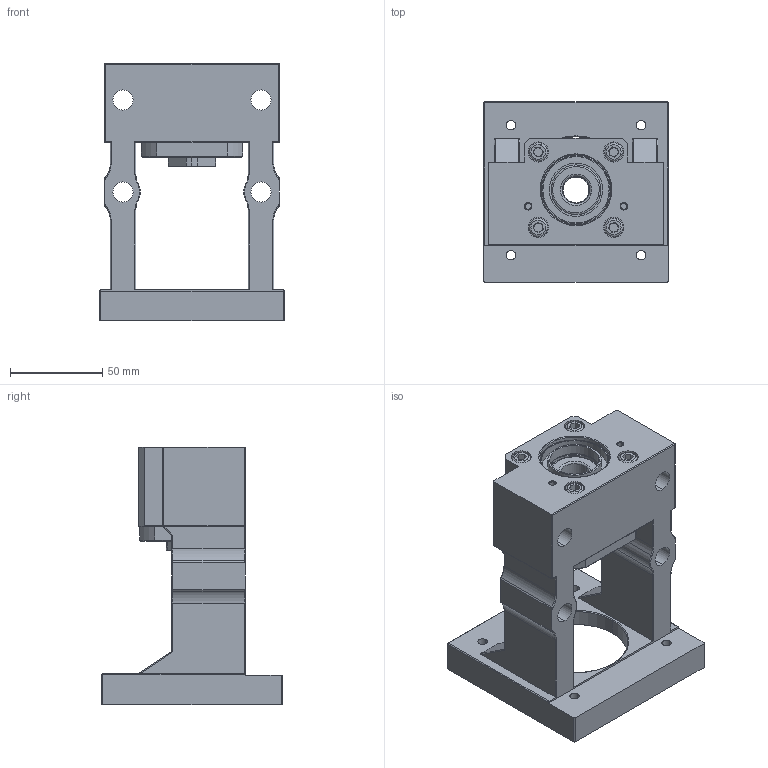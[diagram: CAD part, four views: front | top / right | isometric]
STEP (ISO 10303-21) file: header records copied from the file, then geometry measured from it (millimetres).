
FILE_DESCRIPTION (( 'STEP AP203' ), '1' );
FILE_NAME ('MBCS15-X.STEP', '2017-12-28T07:47:53', ( '' ), ( '' ), 'SwSTEP 2.0', 'SolidWorks 2017', '' );
FILE_SCHEMA (( 'CONFIG_CONTROL_DESIGN' ));
Length unit declared in the file: millimetre
Products named in the file (1): MBCS15-X
Bounding box: 100 x 98 x 140 mm (x, y, z)
Surface area: 84523.3 mm2 (no closed solid volume)
Topology: 0 solids, 23 shells, 347 faces, 892 edges, 566 vertices
Faces by surface type: cylinder 137, plane 102, torus 50, cone 44, sphere 14
Entity records: 10684 total; most frequent: CARTESIAN_POINT 2174, DIRECTION 1914, ORIENTED_EDGE 1599, EDGE_CURVE 858, AXIS2_PLACEMENT_3D 762, VERTEX_POINT 548, CIRCLE 414, EDGE_LOOP 406
